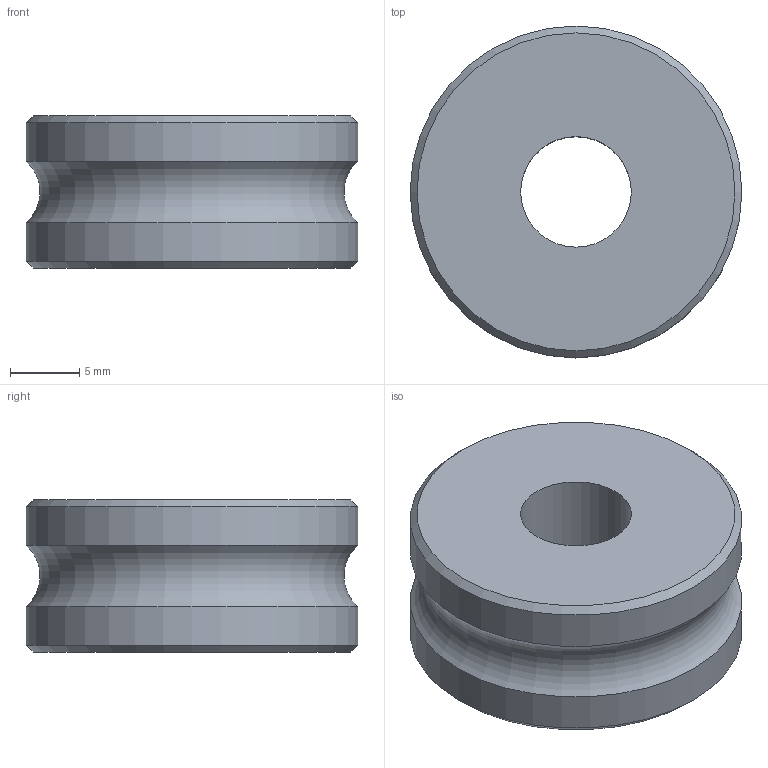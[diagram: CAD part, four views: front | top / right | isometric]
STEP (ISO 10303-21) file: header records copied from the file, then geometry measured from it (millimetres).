
FILE_DESCRIPTION((''),'2;1');
FILE_NAME('C:\Andys Backup Data\WEBSITE\DREAMWEAVER\MiniTec\Products\Linear System LR\CAD\Step\28.0014 SLIDE LR6 BEARING.stp','2016-10-17T13:57:22',('amoles'),(''),'Autodesk Inventor 2012','Autodesk Inventor 2012','');
FILE_SCHEMA(('AUTOMOTIVE_DESIGN { 1 0 10303 214 1 1 1 1 }'));
Length unit declared in the file: millimetre
Products named in the file (1): 28.0014 SLIDE LR6 BEARING
Bounding box: 24 x 24 x 11 mm (x, y, z)
Volume: 4179.1 mm3; surface area: 1887.7 mm2
Topology: 1 solids, 1 shells, 8 faces, 14 edges, 8 vertices
Faces by surface type: cylinder 3, cone 2, plane 2, torus 1
Full cylindrical faces by diameter (mm): 8 x1, 24 x2
Entity records: 194 total; most frequent: DIRECTION 34, CARTESIAN_POINT 25, AXIS2_PLACEMENT_3D 17, ORIENTED_EDGE 16, EDGE_LOOP 16, VERTEX_POINT 8, CIRCLE 8, EDGE_CURVE 8
